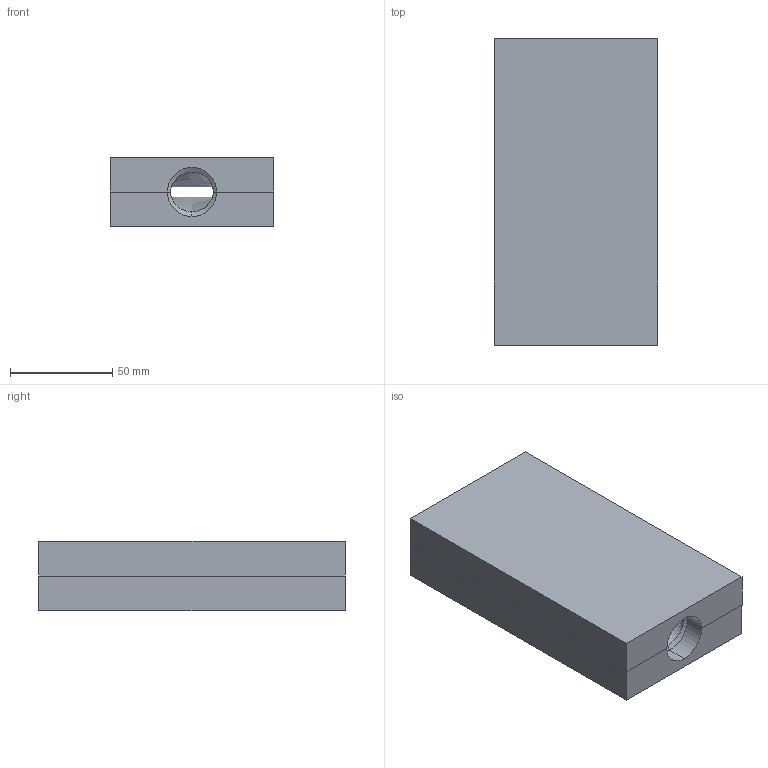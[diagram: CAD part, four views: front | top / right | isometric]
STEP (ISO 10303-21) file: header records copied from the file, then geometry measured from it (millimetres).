
FILE_DESCRIPTION (( 'STEP AP214' ), '1' );
FILE_NAME ('Pruzor_sestava_v.2.STEP', '2019-08-05T07:25:20', ( '' ), ( '' ), 'SwSTEP 2.0', 'SolidWorks 2016', '' );
FILE_SCHEMA (( 'AUTOMOTIVE_DESIGN' ));
Length unit declared in the file: millimetre
Products named in the file (4): alternativ1; Pruzor_sestava_v.2; kolik 2x8
Assembly tree (6 placements, depth 2):
  Pruzor_sestava_v.2
    alternativ1
    alternativ1
    kolik 2x8  x4
Bounding box: 80 x 150 x 34 mm (x, y, z)
Volume: 357952.5 mm3; surface area: 65399.9 mm2
Topology: 6 solids, 6 shells, 100 faces, 246 edges, 150 vertices
Faces by surface type: cylinder 38, plane 36, cone 22, bspline 4
Entity records: 3208 total; most frequent: CARTESIAN_POINT 981, DIRECTION 436, ORIENTED_EDGE 424, EDGE_CURVE 212, AXIS2_PLACEMENT_3D 157, VERTEX_POINT 138, VECTOR 122, LINE 122
